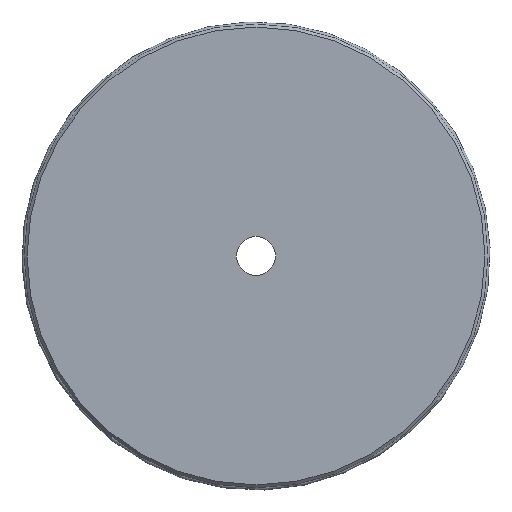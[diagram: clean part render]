
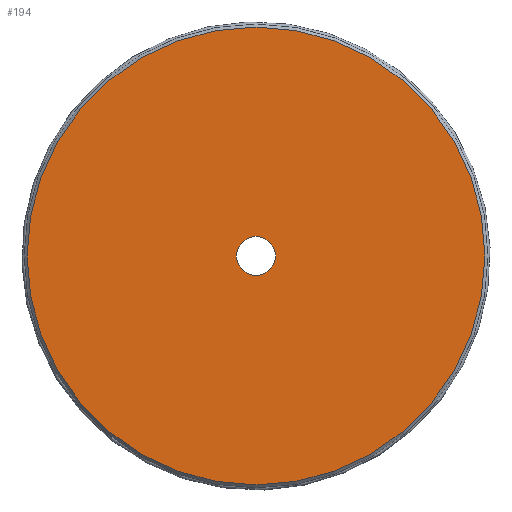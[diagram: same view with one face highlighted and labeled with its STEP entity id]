
A CAD part, front view. The second image highlights one B-rep face of the part: STEP entity #194.
In plain terms, the highlighted planar face has unit normal (0, -1, 0).
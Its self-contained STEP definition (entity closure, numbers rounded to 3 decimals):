
#16=FACE_BOUND('',#42,.T.);
#20=PLANE('',#231);
#30=FACE_OUTER_BOUND('',#41,.T.);
#41=EDGE_LOOP('',(#139));
#42=EDGE_LOOP('',(#140));
#66=CIRCLE('',#225,39.5);
#71=CIRCLE('',#232,3.375);
#85=VERTEX_POINT('',#324);
#90=VERTEX_POINT('',#338);
#103=EDGE_CURVE('',#85,#85,#66,.T.);
#110=EDGE_CURVE('',#90,#90,#71,.T.);
#139=ORIENTED_EDGE('',*,*,#103,.F.);
#140=ORIENTED_EDGE('',*,*,#110,.T.);
#194=ADVANCED_FACE('',(#30,#16),#20,.T.);
#225=AXIS2_PLACEMENT_3D('',#325,#258,#259);
#231=AXIS2_PLACEMENT_3D('',#337,#272,#273);
#232=AXIS2_PLACEMENT_3D('',#339,#274,#275);
#258=DIRECTION('center_axis',(0.,1.,0.));
#259=DIRECTION('ref_axis',(-1.,0.,0.));
#272=DIRECTION('center_axis',(0.,-1.,0.));
#273=DIRECTION('ref_axis',(0.,0.,-1.));
#274=DIRECTION('center_axis',(0.,1.,0.));
#275=DIRECTION('ref_axis',(1.,0.,0.));
#324=CARTESIAN_POINT('',(52.278,-14.541,0.587));
#325=CARTESIAN_POINT('Origin',(12.778,-14.541,0.587));
#337=CARTESIAN_POINT('Origin',(12.778,-14.541,0.587));
#338=CARTESIAN_POINT('',(9.403,-14.541,0.587));
#339=CARTESIAN_POINT('Origin',(12.778,-14.541,0.587));
